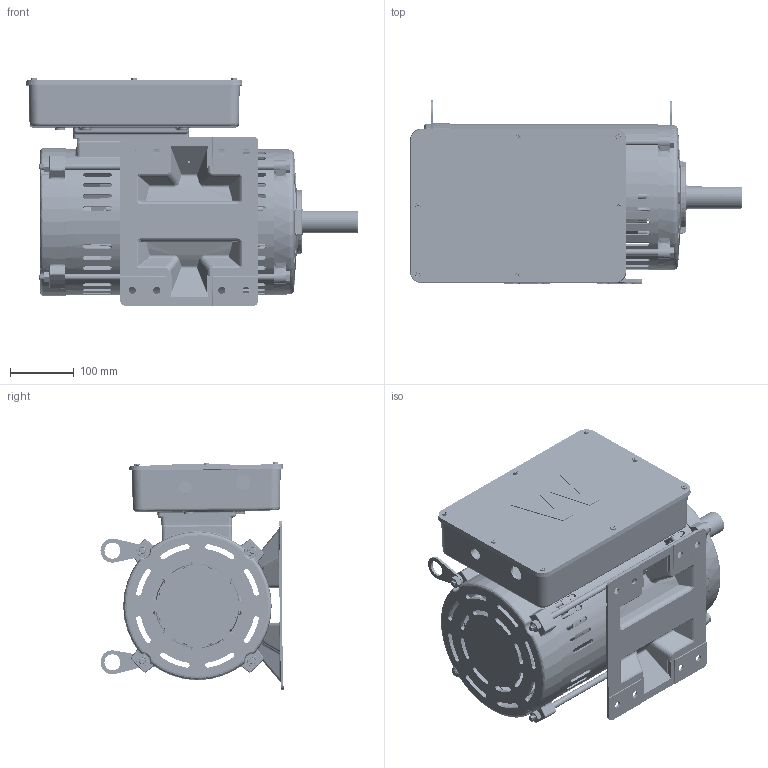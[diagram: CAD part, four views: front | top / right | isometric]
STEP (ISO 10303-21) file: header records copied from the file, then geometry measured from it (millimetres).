
FILE_DESCRIPTION (( 'STEP AP203' ), '1' );
FILE_NAME ('CDM-210T 7.5HP-4P.STEP', '2025-01-11T03:39:26', ( 'User' ), ( 'China' ), 'SwSTEP 2.0', 'SolidWorks 2019', '' );
FILE_SCHEMA (( 'CONFIG_CONTROL_DESIGN' ));
Length unit declared in the file: millimetre
Products named in the file (11): 錨璃2; zhuti; M5坋趼蹟佪; 213-1; tt; luogan2; dijj; 111111111111; CDM-210T 7.5HP-4P; luomu; 堤盄碟
Assembly tree (24 placements, depth 2):
  CDM-210T 7.5HP-4P
    zhuti
    213-1
    luogan2  x4
    111111111111  x2
    luomu  x4
    堤盄碟
    錨璃2
    M5坋趼蹟佪  x8
    tt
    dijj
Bounding box: 518.75 x 286.04 x 355.3 mm (x, y, z)
Volume: 6672024.8 mm3; surface area: 1700282 mm2
Topology: 28 solids, 28 shells, 4066 faces, 10766 edges, 6682 vertices
Faces by surface type: plane 1296, cylinder 1286, bspline 679, cone 655, torus 140, sphere 10
Entity records: 119208 total; most frequent: CARTESIAN_POINT 53871, ORIENTED_EDGE 14382, DIRECTION 12247, EDGE_CURVE 7191, AXIS2_PLACEMENT_3D 4845, VERTEX_POINT 4431, EDGE_LOOP 3140, FACE_OUTER_BOUND 2839
